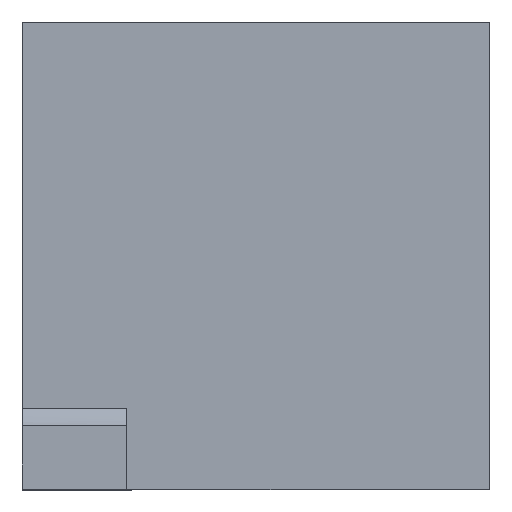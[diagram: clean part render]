
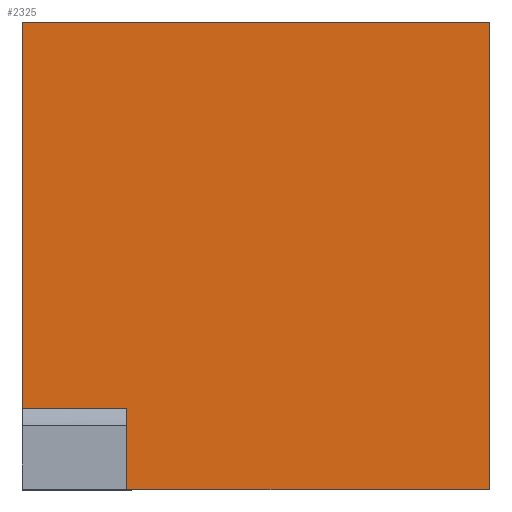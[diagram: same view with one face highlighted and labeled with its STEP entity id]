
A CAD part, top view. The second image highlights one B-rep face of the part: STEP entity #2325.
In plain terms, the highlighted planar face has unit normal (0, 0, 1).
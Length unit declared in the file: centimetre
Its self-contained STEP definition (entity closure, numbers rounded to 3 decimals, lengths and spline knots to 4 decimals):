
#14 = LINE ( 'NONE', #2737, #2066 ) ;
#112 = CARTESIAN_POINT ( 'NONE',  ( 223.0461, 173.7417, 1000. ) ) ;
#120 = VERTEX_POINT ( 'NONE', #1212 ) ;
#249 = EDGE_CURVE ( 'NONE', #1777, #522, #14, .T. ) ;
#260 = DIRECTION ( 'NONE',  ( 0., 1., 0. ) ) ;
#314 = ORIENTED_EDGE ( 'NONE', *, *, #249, .F. ) ;
#359 = FACE_OUTER_BOUND ( 'NONE', #534, .T. ) ;
#426 = ORIENTED_EDGE ( 'NONE', *, *, #1740, .T. ) ;
#486 = LINE ( 'NONE', #1553, #489 ) ;
#489 = VECTOR ( 'NONE', #2190, 100. ) ;
#495 = EDGE_CURVE ( 'NONE', #522, #2090, #2036, .T. ) ;
#522 = VERTEX_POINT ( 'NONE', #1424 ) ;
#529 = ORIENTED_EDGE ( 'NONE', *, *, #1540, .T. ) ;
#534 = EDGE_LOOP ( 'NONE', ( #2079, #314, #2539, #426, #529, #1395 ) ) ;
#787 = CARTESIAN_POINT ( 'NONE',  ( 223.0461, 0., 1000. ) ) ;
#807 = DIRECTION ( 'NONE',  ( 0., 0., 1. ) ) ;
#837 = VECTOR ( 'NONE', #1536, 100. ) ;
#880 = CARTESIAN_POINT ( 'NONE',  ( 0., 173.7417, 1000. ) ) ;
#904 = LINE ( 'NONE', #2156, #2210 ) ;
#905 = CARTESIAN_POINT ( 'NONE',  ( 1000., 1000., 1000. ) ) ;
#1065 = LINE ( 'NONE', #1887, #1496 ) ;
#1136 = VERTEX_POINT ( 'NONE', #1475 ) ;
#1184 = VERTEX_POINT ( 'NONE', #905 ) ;
#1212 = CARTESIAN_POINT ( 'NONE',  ( 1000., 0., 1000. ) ) ;
#1243 = DIRECTION ( 'NONE',  ( 0., -1., 0. ) ) ;
#1282 = AXIS2_PLACEMENT_3D ( 'NONE', #2052, #807, #1841 ) ;
#1333 = LINE ( 'NONE', #2351, #837 ) ;
#1395 = ORIENTED_EDGE ( 'NONE', *, *, #1406, .T. ) ;
#1406 = EDGE_CURVE ( 'NONE', #1136, #2090, #1065, .T. ) ;
#1424 = CARTESIAN_POINT ( 'NONE',  ( 223.0461, 173.7417, 1000. ) ) ;
#1475 = CARTESIAN_POINT ( 'NONE',  ( 0., 1000., 1000. ) ) ;
#1496 = VECTOR ( 'NONE', #1243, 100. ) ;
#1536 = DIRECTION ( 'NONE',  ( -1., 0., 0. ) ) ;
#1540 = EDGE_CURVE ( 'NONE', #1184, #1136, #1333, .T. ) ;
#1553 = CARTESIAN_POINT ( 'NONE',  ( 0., 0., 1000. ) ) ;
#1586 = VECTOR ( 'NONE', #1674, 100. ) ;
#1607 = EDGE_CURVE ( 'NONE', #1777, #120, #486, .T. ) ;
#1674 = DIRECTION ( 'NONE',  ( -1., 0., 0. ) ) ;
#1740 = EDGE_CURVE ( 'NONE', #120, #1184, #904, .T. ) ;
#1777 = VERTEX_POINT ( 'NONE', #787 ) ;
#1841 = DIRECTION ( 'NONE',  ( 1., 0., 0. ) ) ;
#1855 = PLANE ( 'NONE',  #1282 ) ;
#1887 = CARTESIAN_POINT ( 'NONE',  ( 0., 1000., 1000. ) ) ;
#2036 = LINE ( 'NONE', #112, #1586 ) ;
#2052 = CARTESIAN_POINT ( 'NONE',  ( 0., 0., 1000. ) ) ;
#2066 = VECTOR ( 'NONE', #2560, 100. ) ;
#2079 = ORIENTED_EDGE ( 'NONE', *, *, #495, .F. ) ;
#2090 = VERTEX_POINT ( 'NONE', #880 ) ;
#2156 = CARTESIAN_POINT ( 'NONE',  ( 1000., 1000., 1000. ) ) ;
#2190 = DIRECTION ( 'NONE',  ( 1., 0., 0. ) ) ;
#2210 = VECTOR ( 'NONE', #260, 100. ) ;
#2325 = ADVANCED_FACE ( 'NONE', ( #359 ), #1855, .T. ) ;
#2351 = CARTESIAN_POINT ( 'NONE',  ( 0., 1000., 1000. ) ) ;
#2539 = ORIENTED_EDGE ( 'NONE', *, *, #1607, .T. ) ;
#2560 = DIRECTION ( 'NONE',  ( 0., 1., 0. ) ) ;
#2737 = CARTESIAN_POINT ( 'NONE',  ( 223.0461, 0., 1000. ) ) ;
